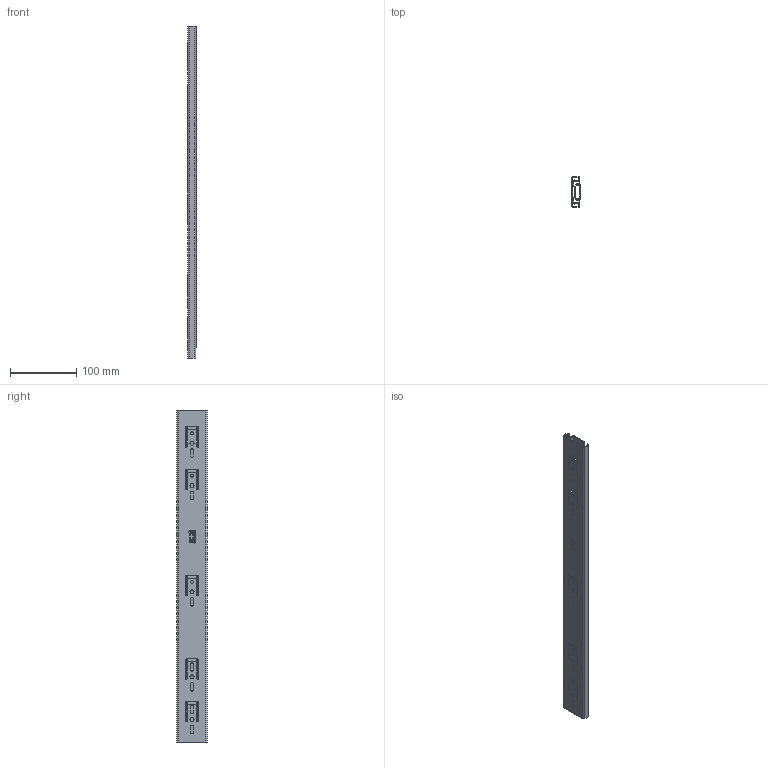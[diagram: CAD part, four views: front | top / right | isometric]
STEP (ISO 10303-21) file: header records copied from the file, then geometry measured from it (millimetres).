
FILE_DESCRIPTION (( 'STEP AP214' ), '1' );
FILE_NAME ('DS500STD-CLOSED.STEP', '2018-11-01T15:01:14', ( '' ), ( '' ), 'SwSTEP 2.0', 'SolidWorks 2017', '' );
FILE_SCHEMA (( 'AUTOMOTIVE_DESIGN' ));
Length unit declared in the file: millimetre
Products named in the file (4): DS500STD-CLOSED; DS-STD-2_500; DS-STD-1_500; DS-STD-3_500
Assembly tree (3 placements, depth 2):
  DS500STD-CLOSED
    DS-STD-3_500
    DS-STD-2_500
    DS-STD-1_500
Bounding box: 12.71 x 45.5 x 500 mm (x, y, z)
Volume: 92819.7 mm3; surface area: 153534.8 mm2
Topology: 3 solids, 3 shells, 845 faces, 2319 edges, 1546 vertices
Faces by surface type: plane 489, bspline 237, cylinder 119
Entity records: 28511 total; most frequent: CARTESIAN_POINT 8145, ORIENTED_EDGE 4638, DIRECTION 3311, EDGE_CURVE 2319, LINE 1607, VECTOR 1607, VERTEX_POINT 1546, EDGE_LOOP 969
